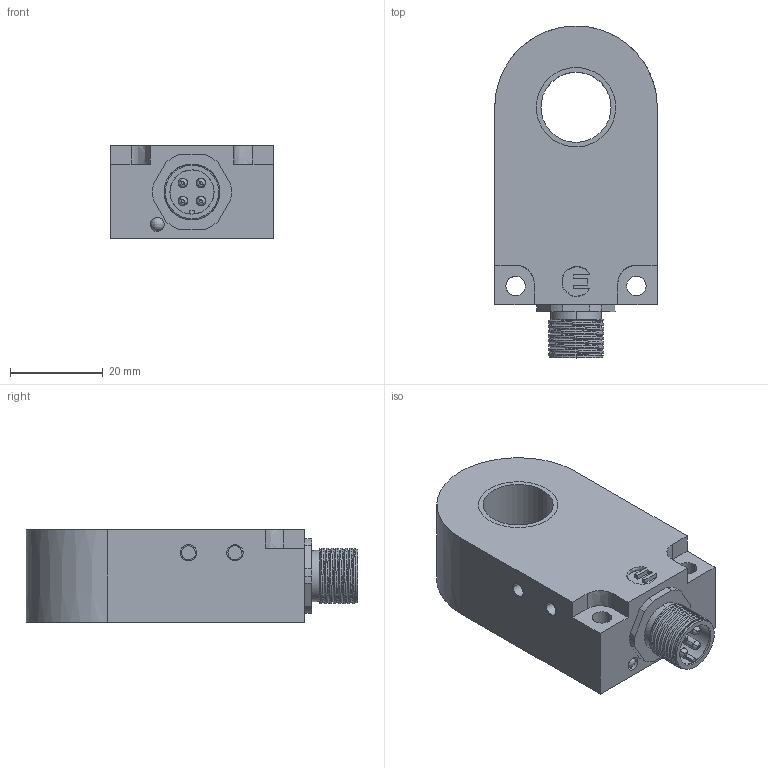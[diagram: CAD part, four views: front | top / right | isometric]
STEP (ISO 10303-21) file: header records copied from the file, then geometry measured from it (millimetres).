
FILE_DESCRIPTION(/* description */ (''),/* implementation_level */ '2;1');
FILE_NAME(/* name */ 'IR15',/* time_stamp */ '2008-03-03T13:35:36+01:00',/* author */ (''),/* organization */ (''),/* preprocessor_version */ 'ST-DEVELOPER v8',/* originating_system */ '',/* authorisation */ '');
FILE_SCHEMA (('CONFIG_CONTROL_DESIGN'));
Length unit declared in the file: millimetre
Products named in the file (1): 30
Bounding box: 35 x 71.5 x 20 mm (x, y, z)
Volume: 35675.6 mm3; surface area: 13558.7 mm2
Topology: 26 solids, 26 shells, 283 faces, 621 edges, 408 vertices
Faces by surface type: bspline 283
Entity records: 11933 total; most frequent: CARTESIAN_POINT 7951, ORIENTED_EDGE 1234, EDGE_CURVE 617, B_SPLINE_CURVE_WITH_KNOTS 465, VERTEX_POINT 439, EDGE_LOOP 315, ADVANCED_FACE 283, FACE_OUTER_BOUND 283
